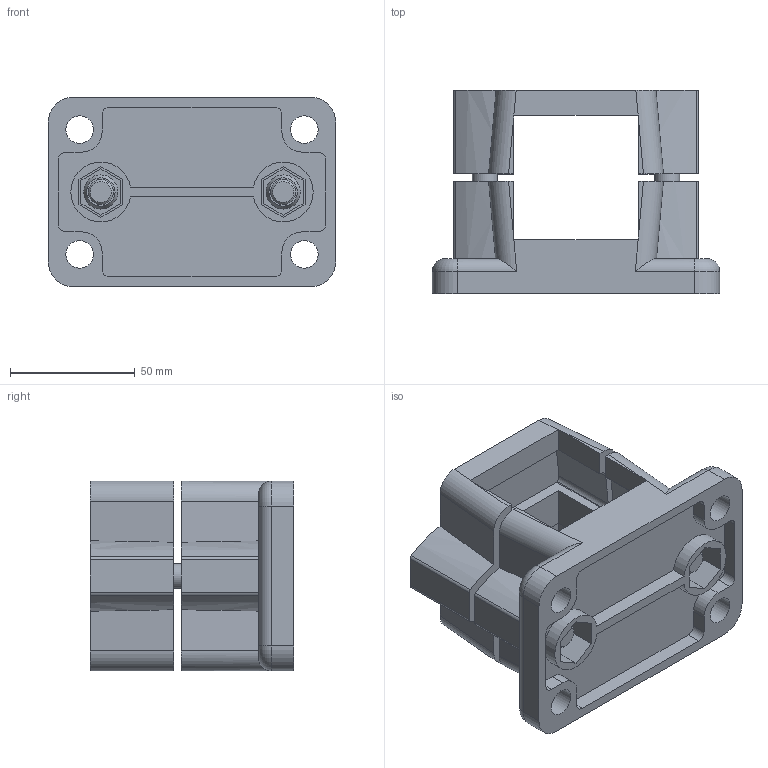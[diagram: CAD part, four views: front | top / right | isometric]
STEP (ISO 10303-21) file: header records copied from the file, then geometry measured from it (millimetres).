
FILE_DESCRIPTION( ( 'STEP AP203' ), '1' );
FILE_NAME( 'C:/Temp/Ganter_Step_05_03_2020/data/3_7/147/Flanged connector clamp GN 147-V50-2-SW.stp', '2020-03-12T14:20:40', ( 'License CC BY-ND 4.0' ), ( 'CADENAS' ), ' ', 'PARTsolutions', ' ' );
FILE_SCHEMA( ( 'CONFIG_CONTROL_DESIGN' ) );
Length unit declared in the file: millimetre
Products named in the file (1): _Flanged connector clamp GN 147-V50-2-SW
Bounding box: 115 x 81.5 x 76 mm (x, y, z)
Volume: 209046.3 mm3; surface area: 77621 mm2
Topology: 1 solids, 1 shells, 242 faces, 652 edges, 434 vertices
Faces by surface type: plane 148, cylinder 84, torus 6, cone 4
Full cylindrical faces by diameter (mm): 10 x4, 10.5 x4, 11 x4, 16 x2
Entity records: 7570 total; most frequent: CARTESIAN_POINT 1373, DIRECTION 1304, ORIENTED_EDGE 1244, EDGE_CURVE 622, AXIS2_PLACEMENT_3D 443, VERTEX_POINT 424, LINE 418, VECTOR 418
